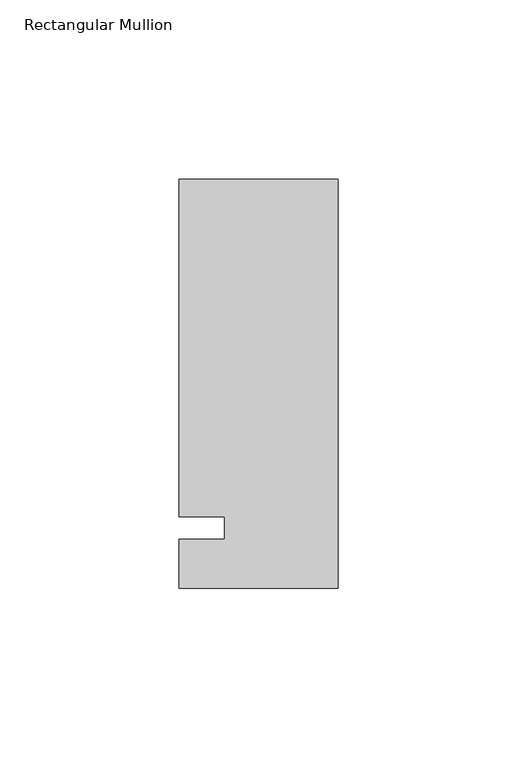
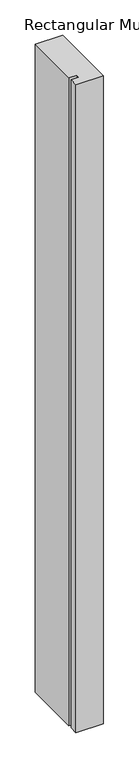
"""IFC4 building model written with IfcOpenShell, lengths in millimetres: member geometry, Rectangular Mullion : Kawneer-TRIFAB_VG_450_BACK_SB_Jamb L."""

from ifc_helpers import new_model, si_unit, frame, origin, place, context, project, spatial, polyline, outline, extrude, source, transform, mapped, element, save


def rectangular_mullion_3aae72b7(model_context):
    return source(origin(), model_context, "Body", "SweptSolid", [
        extrude(outline(polyline([(-44.45, -16.8671875), (-44.45, -3.2340721), (-31.7482296, -3.2340721), (-31.7482296, 3.1159279), (-44.45, 3.1159279), (-44.45, 97.4328125), (0.0, 97.4328125), (0.0, -16.8671875), (-44.45, -16.8671875)])), frame((0.0, 0.0, -1116.4405973), z_axis=(0.0, 0.0, 1.0), x_axis=(1.0, 0.0, 0.0)), (0.0, 0.0, 1.0), 1116.4405973),
    ])


if __name__ == "__main__":
    model = new_model("IFC4")
    model_context = context("Model", 3, world=origin())
    ifc_project = project(units=[si_unit("LENGTHUNIT", "METRE", prefix="MILLI")], contexts=[model_context])
    site = spatial("IfcSite", under=ifc_project)
    building = spatial("IfcBuilding", under=site)
    placement = place(None, origin())
    rectangular_mullion_shape = rectangular_mullion_3aae72b7(model_context)
    element("IfcMember", 1, ObjectType="Rectangular Mullion : Kawneer-TRIFAB_VG_450_BACK_SB_Jamb L", at=placement, inside=building, context=model_context, shape_type="MappedRepresentation", body=[
        mapped(rectangular_mullion_shape, transform((0.0, 0.0, 0.0), x_axis=(1.0, 0.0, 0.0), y_axis=(0.0, 1.0, 0.0), z_axis=(0.0, 0.0, 1.0))),
    ])
    save(model, "model.ifc")
